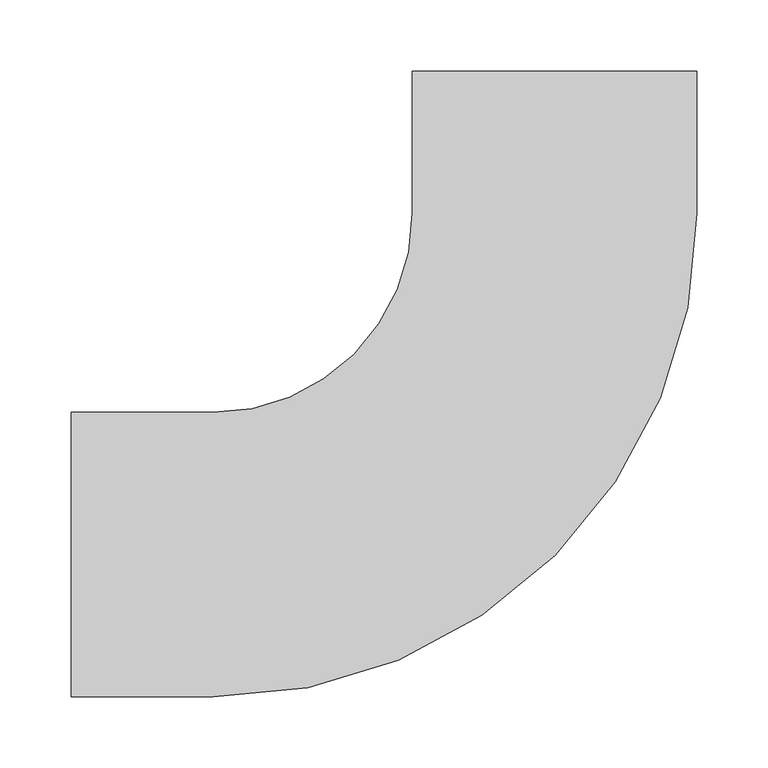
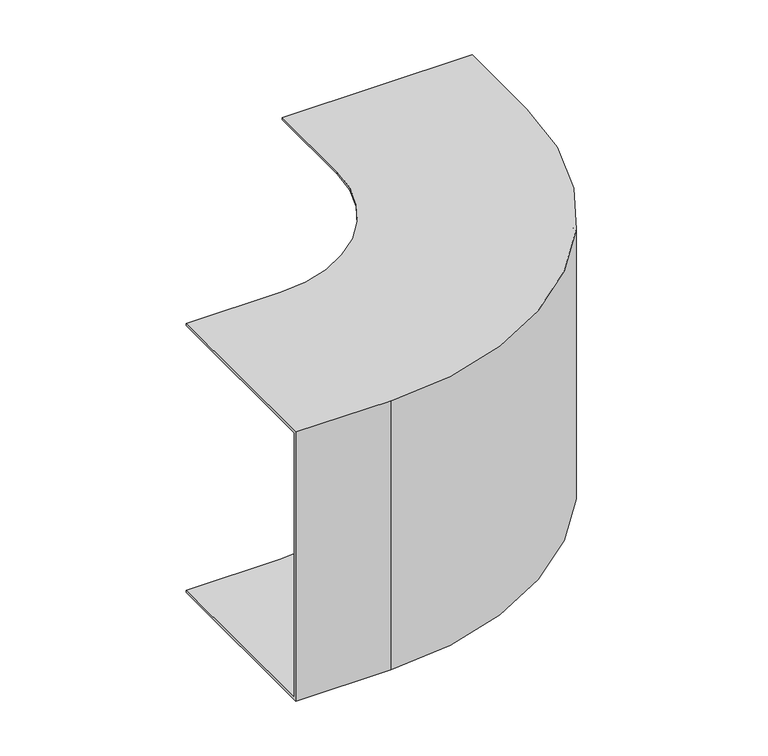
"""IFC4 building model written with IfcOpenShell, lengths in millimetres: cable carrier fitting geometry, BAKS_Vertical_bend_int : LZWPH200/LZWMPH200."""

from ifc_helpers import new_model, si_unit, frame, origin, place, context, project, spatial, polyline, circle_curve, source, transform, mapped, element, save
from ifc_brep_helpers import plane_surface, cylinder_surface, revolved_surface, advanced_brep


def cable_carrier_fitting_4019ad99(model_context):
    return source(origin(), model_context, "Body", "AdvancedBrep", [
        advanced_brep(
        [(-340.0, 100.0, -150.0), (-340.0, -100.0, -150.0), (-340.0, -100.0, 150.0), (-340.0, 100.0, 150.0), (-340.0, 100.0, 147.46), (-340.0, -97.46, 147.46), (-340.0, -97.46, -147.46), (-340.0, 100.0, -147.46), (-100.0, 340.0, -150.0), (-100.0, 340.0, -147.46), (97.46, 340.0, -147.46), (97.46, 340.0, 147.46), (-100.0, 340.0, 147.46), (-100.0, 340.0, 150.0), (100.0, 340.0, 150.0), (100.0, 340.0, -150.0), (-240.0, 100.0, -150.0), (-100.0, 240.0, -150.0), (100.0, 240.0, -150.0), (-240.0, -100.0, -150.0), (-240.0, -100.0, 150.0), (100.0, 240.0, 150.0), (-100.0, 240.0, 150.0), (-240.0, 100.0, 150.0), (-240.0, 100.0, 147.46), (-100.0, 240.0, 147.46), (97.46, 240.0, 147.46), (-240.0, -97.46, 147.46), (-240.0, -97.46, -147.46), (97.46, 240.0, -147.46), (-100.0, 240.0, -147.46), (-240.0, 100.0, -147.46)],
        [
            (0, 1),
            (1, 2),
            (2, 3),
            (3, 4),
            (4, 5),
            (5, 6),
            (6, 7),
            (7, 0),
            (8, 9),
            (9, 10),
            (10, 11),
            (11, 12),
            (12, 13),
            (13, 14),
            (14, 15),
            (15, 8),
            (0, 16),
            (16, 17, circle_curve(frame((-240.0, 240.0, -150.0), z_axis=(0.0, 0.0, 1.0), x_axis=(0.0, -1.0, 0.0)), 140.0)),
            (17, 8),
            (15, 18),
            (18, 19, circle_curve(frame((-240.0, 240.0, -150.0), z_axis=(0.0, 0.0, -1.0), x_axis=(0.0, -1.0, 0.0)), 340.0)),
            (19, 1),
            (19, 20),
            (20, 2),
            (20, 21, circle_curve(frame((-240.0, 240.0, 150.0), z_axis=(0.0, 0.0, 1.0), x_axis=(0.0, -1.0, 0.0)), 340.0)),
            (21, 14),
            (13, 22),
            (22, 23, circle_curve(frame((-240.0, 240.0, 150.0), z_axis=(0.0, 0.0, -1.0), x_axis=(0.0, -1.0, 0.0)), 140.0)),
            (23, 3),
            (23, 24),
            (24, 4),
            (24, 25, circle_curve(frame((-240.0, 240.0, 147.46), z_axis=(0.0, 0.0, 1.0), x_axis=(0.0, -1.0, 0.0)), 140.0)),
            (25, 12),
            (11, 26),
            (26, 27, circle_curve(frame((-240.0, 240.0, 147.46), z_axis=(0.0, 0.0, -1.0), x_axis=(0.0, -1.0, 0.0)), 337.46)),
            (27, 5),
            (27, 28),
            (28, 6),
            (28, 29, circle_curve(frame((-240.0, 240.0, -147.46), z_axis=(0.0, 0.0, 1.0), x_axis=(0.0, -1.0, 0.0)), 337.46)),
            (29, 10),
            (9, 30),
            (30, 31, circle_curve(frame((-240.0, 240.0, -147.46), z_axis=(0.0, 0.0, -1.0), x_axis=(0.0, -1.0, 0.0)), 140.0)),
            (31, 7),
            (31, 16),
            (18, 21),
            (22, 25),
            (26, 29),
            (30, 17),
        ],
        [
            plane_surface(frame((-340.0, 0.0, 0.0), z_axis=(-1.0, 0.0, 0.0), x_axis=(0.0, 0.0, 1.0))),
            plane_surface(frame((0.0, 340.0, 0.0), z_axis=(0.0, 1.0, 0.0), x_axis=(0.0, 0.0, 1.0))),
            plane_surface(frame((-340.0, 100.0, -150.0), z_axis=(0.0, 0.0, -1.0), x_axis=(1.0, 0.0, 0.0))),
            plane_surface(frame((-340.0, -100.0, -150.0), z_axis=(0.0, -1.0, 0.0), x_axis=(1.0, 0.0, 0.0))),
            plane_surface(frame((-340.0, -100.0, 150.0), z_axis=(0.0, 0.0, 1.0), x_axis=(1.0, 0.0, 0.0))),
            plane_surface(frame((-340.0, 100.0, 150.0), z_axis=(0.0, 1.0, 0.0), x_axis=(1.0, 0.0, 0.0))),
            plane_surface(frame((-340.0, 100.0, 147.46), z_axis=(0.0, 0.0, -1.0), x_axis=(1.0, 0.0, 0.0))),
            plane_surface(frame((-340.0, -97.46, 147.46), z_axis=(0.0, 1.0, 0.0), x_axis=(1.0, 0.0, 0.0))),
            plane_surface(frame((-340.0, -97.46, -147.46), z_axis=(0.0, 0.0, 1.0), x_axis=(1.0, 0.0, 0.0))),
            plane_surface(frame((-340.0, 100.0, -147.46), z_axis=(0.0, 1.0, 0.0), x_axis=(1.0, 0.0, 0.0))),
            cylinder_surface(frame((-240.0, 240.0, 0.0), z_axis=(0.0, 0.0, 1.0), x_axis=(0.0, -1.0, 0.0)), 340.0),
            revolved_surface(polyline([(-240.0, 100.0, 150.0), (-240.0, 100.0, 147.46)]), (-240.0, 240.0, 0.0), (0.0, 0.0, 1.0)),
            revolved_surface(polyline([(-240.0, -97.45999999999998, 147.46), (-240.0, -97.45999999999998, -147.46)]), (-240.0, 240.0, 0.0), (0.0, 0.0, 1.0)),
            revolved_surface(polyline([(-240.0, 100.0, -147.46), (-240.0, 100.0, -150.0)]), (-240.0, 240.0, 0.0), (0.0, 0.0, 1.0)),
            plane_surface(frame((100.0, 240.0, -150.0), z_axis=(1.0, 0.0, 0.0), x_axis=(0.0, 1.0, 0.0))),
            plane_surface(frame((-100.0, 240.0, 150.0), z_axis=(-1.0, 0.0, 0.0), x_axis=(0.0, 1.0, 0.0))),
            plane_surface(frame((97.46, 240.0, 147.46), z_axis=(-1.0, 0.0, 0.0), x_axis=(0.0, 1.0, 0.0))),
            plane_surface(frame((-100.0, 240.0, -147.46), z_axis=(-1.0, 0.0, 0.0), x_axis=(0.0, 1.0, 0.0))),
        ],
        [
            (0, [[1, 2, 3, 4, 5, 6, 7, 8]]),
            (1, [[9, 10, 11, 12, 13, 14, 15, 16]]),
            (2, [[-1, 17, 18, 19, -16, 20, 21, 22]]),
            (3, [[-2, -22, 23, 24]]),
            (4, [[-3, -24, 25, 26, -14, 27, 28, 29]]),
            (5, [[-4, -29, 30, 31]]),
            (6, [[-5, -31, 32, 33, -12, 34, 35, 36]]),
            (7, [[-6, -36, 37, 38]]),
            (8, [[-7, -38, 39, 40, -10, 41, 42, 43]]),
            (9, [[-8, -43, 44, -17]]),
            (10, [[-25, -23, -21, 45]]),
            (11, [[-32, -30, -28, 46]]),
            (12, [[-39, -37, -35, 47]]),
            (13, [[-18, -44, -42, 48]]),
            (14, [[-45, -20, -15, -26]]),
            (15, [[-46, -27, -13, -33]]),
            (16, [[-47, -34, -11, -40]]),
            (17, [[-48, -41, -9, -19]]),
        ],
    ),
    ])


if __name__ == "__main__":
    model = new_model("IFC4")
    model_context = context("Model", 3, world=origin())
    ifc_project = project(units=[si_unit("LENGTHUNIT", "METRE", prefix="MILLI")], contexts=[model_context])
    site = spatial("IfcSite", under=ifc_project)
    building = spatial("IfcBuilding", under=site)
    placement = place(None, origin())
    cable_carrier_fitting_shape = cable_carrier_fitting_4019ad99(model_context)
    element("IfcCableCarrierFitting", 1, ObjectType="BAKS_Vertical_bend_int : LZWPH200/LZWMPH200", at=placement, inside=building, context=model_context, shape_type="MappedRepresentation", body=[
        mapped(cable_carrier_fitting_shape, transform((0.0, 0.0, 0.0), x_axis=(1.0, 0.0, 0.0), y_axis=(0.0, 1.0, 0.0), z_axis=(0.0, 0.0, 1.0))),
    ])
    save(model, "model.ifc")
